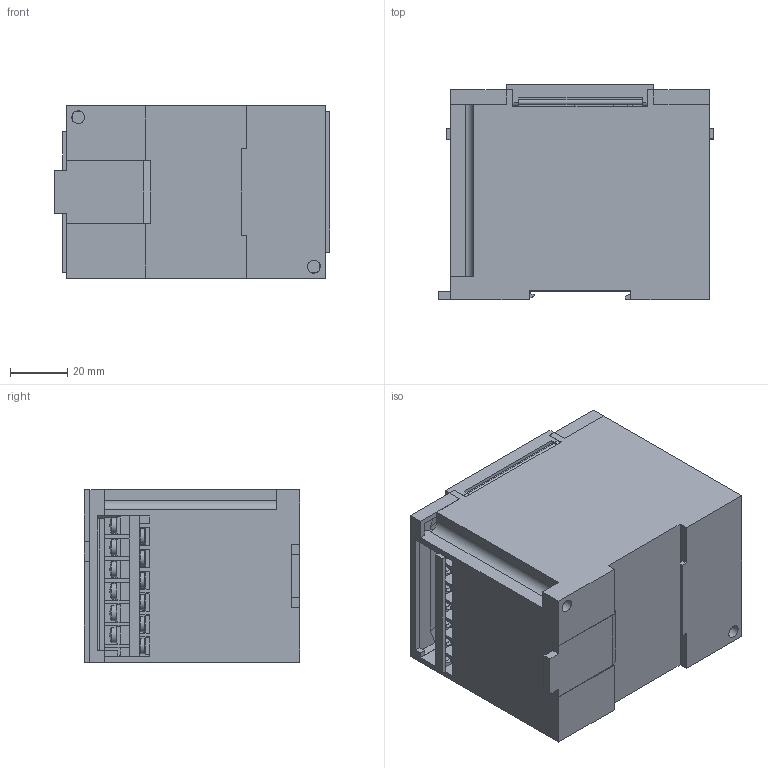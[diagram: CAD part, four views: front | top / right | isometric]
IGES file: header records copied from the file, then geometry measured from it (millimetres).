
Global section: file name: J:\710_sanki\WEB\3DC-0017_FX3S\fx3s-14mr_es\fx3s-14mr_es_a.igs; preprocessor: I-DEAS 3D IGES Translator 15; date: 20141128.160533; units: millimetre
Bounding box: 95.8 x 75 x 60 mm (x, y, z)
Volume: 347064.5 mm3; surface area: 59090.2 mm2
Topology: 8 solids, 8 shells, 671 faces, 1864 edges, 1238 vertices
Faces by surface type: bspline 671
